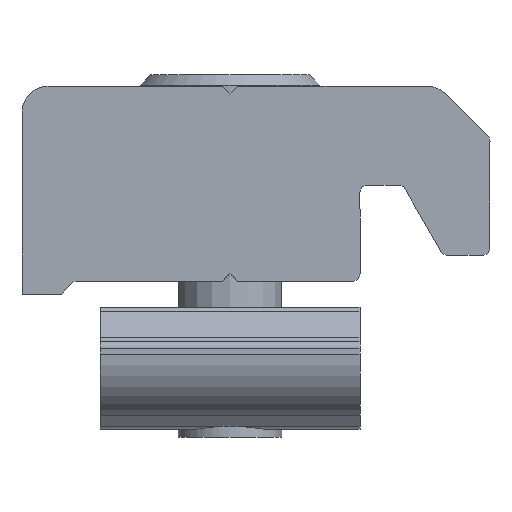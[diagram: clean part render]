
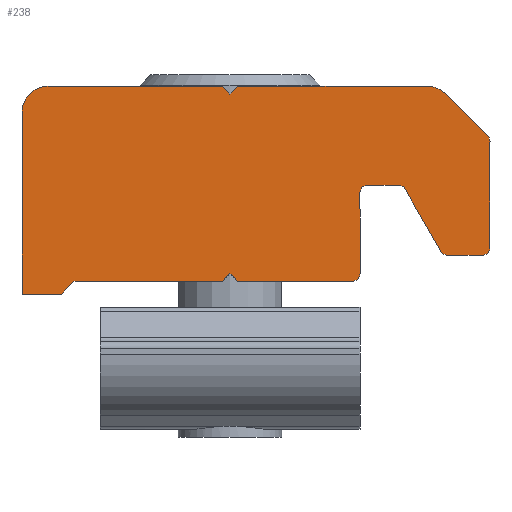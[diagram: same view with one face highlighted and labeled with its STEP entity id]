
A CAD part, front view. The second image highlights one B-rep face of the part: STEP entity #238.
In plain terms, the highlighted planar face has unit normal (0, -1, 0) as drawn and (0, 0, 1) by its records, which use the part's own axes.
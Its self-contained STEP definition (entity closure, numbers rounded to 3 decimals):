
#238=ADVANCED_FACE('',(#438),#439,.T.);
#438=FACE_OUTER_BOUND('',#654,.T.);
#439=PLANE('',#655);
#654=EDGE_LOOP('',(#1081,#1082,#1083,#1084,#1085,#1086,#1087,#1088,#1089,#1090,#1091,#1092,#1093,#1094,#1095,#1096,#1097,#1098,#1099,#1100,#1101,#1102,#1103,#1104,#1105,#1106));
#655=AXIS2_PLACEMENT_3D('',#1107,#1108,#1109);
#1081=ORIENTED_EDGE('',*,*,#1489,.T.);
#1082=ORIENTED_EDGE('',*,*,#1366,.T.);
#1083=ORIENTED_EDGE('',*,*,#1490,.T.);
#1084=ORIENTED_EDGE('',*,*,#1491,.T.);
#1085=ORIENTED_EDGE('',*,*,#1492,.T.);
#1086=ORIENTED_EDGE('',*,*,#1362,.T.);
#1087=ORIENTED_EDGE('',*,*,#1481,.T.);
#1088=ORIENTED_EDGE('',*,*,#1389,.T.);
#1089=ORIENTED_EDGE('',*,*,#1431,.T.);
#1090=ORIENTED_EDGE('',*,*,#1483,.T.);
#1091=ORIENTED_EDGE('',*,*,#1337,.T.);
#1092=ORIENTED_EDGE('',*,*,#1493,.T.);
#1093=ORIENTED_EDGE('',*,*,#1494,.T.);
#1094=ORIENTED_EDGE('',*,*,#1462,.T.);
#1095=ORIENTED_EDGE('',*,*,#1427,.T.);
#1096=ORIENTED_EDGE('',*,*,#1475,.T.);
#1097=ORIENTED_EDGE('',*,*,#1469,.T.);
#1098=ORIENTED_EDGE('',*,*,#1495,.T.);
#1099=ORIENTED_EDGE('',*,*,#1356,.T.);
#1100=ORIENTED_EDGE('',*,*,#1380,.T.);
#1101=ORIENTED_EDGE('',*,*,#1496,.T.);
#1102=ORIENTED_EDGE('',*,*,#1485,.T.);
#1103=ORIENTED_EDGE('',*,*,#1394,.T.);
#1104=ORIENTED_EDGE('',*,*,#1497,.T.);
#1105=ORIENTED_EDGE('',*,*,#1479,.T.);
#1106=ORIENTED_EDGE('',*,*,#1347,.T.);
#1107=CARTESIAN_POINT('',(1.,7.0,30.0));
#1108=DIRECTION('',(0.0,0.0,1.0));
#1109=DIRECTION('',(1.0,0.0,0.0));
#1337=EDGE_CURVE('',#1760,#1758,#1761,.T.);
#1347=EDGE_CURVE('',#1764,#1777,#1779,.T.);
#1356=EDGE_CURVE('',#1795,#1793,#1796,.T.);
#1362=EDGE_CURVE('',#1799,#1804,#1806,.T.);
#1366=EDGE_CURVE('',#1813,#1811,#1814,.T.);
#1380=EDGE_CURVE('',#1793,#1834,#1836,.T.);
#1389=EDGE_CURVE('',#1838,#1851,#1853,.T.);
#1394=EDGE_CURVE('',#1862,#1860,#1863,.T.);
#1427=EDGE_CURVE('',#1914,#1912,#1915,.T.);
#1431=EDGE_CURVE('',#1851,#1918,#1920,.T.);
#1462=EDGE_CURVE('',#1967,#1914,#1968,.T.);
#1469=EDGE_CURVE('',#1977,#1975,#1978,.T.);
#1475=EDGE_CURVE('',#1912,#1977,#1984,.T.);
#1479=EDGE_CURVE('',#1986,#1764,#1990,.T.);
#1481=EDGE_CURVE('',#1804,#1838,#1992,.T.);
#1483=EDGE_CURVE('',#1918,#1760,#1994,.T.);
#1485=EDGE_CURVE('',#1996,#1862,#1997,.T.);
#1489=EDGE_CURVE('',#1777,#1813,#2001,.T.);
#1490=EDGE_CURVE('',#1811,#2002,#2003,.T.);
#1491=EDGE_CURVE('',#2002,#2004,#2005,.T.);
#1492=EDGE_CURVE('',#2004,#1799,#2006,.T.);
#1493=EDGE_CURVE('',#1758,#2007,#2008,.T.);
#1494=EDGE_CURVE('',#2007,#1967,#2009,.T.);
#1495=EDGE_CURVE('',#1975,#1795,#2010,.T.);
#1496=EDGE_CURVE('',#1834,#1996,#2011,.T.);
#1497=EDGE_CURVE('',#1860,#1986,#2012,.T.);
#1758=VERTEX_POINT('',#2125);
#1760=VERTEX_POINT('',#2128);
#1761=LINE('',#2129,#2130);
#1764=VERTEX_POINT('',#2134);
#1777=VERTEX_POINT('',#2151);
#1779=LINE('',#2154,#2155);
#1793=VERTEX_POINT('',#2174);
#1795=VERTEX_POINT('',#2177);
#1796=LINE('',#2178,#2179);
#1799=VERTEX_POINT('',#2183);
#1804=VERTEX_POINT('',#2189);
#1806=LINE('',#2192,#2193);
#1811=VERTEX_POINT('',#2199);
#1813=VERTEX_POINT('',#2202);
#1814=LINE('',#2203,#2204);
#1834=VERTEX_POINT('',#2230);
#1836=CIRCLE('',#2233,0.3);
#1838=VERTEX_POINT('',#2235);
#1851=VERTEX_POINT('',#2252);
#1853=LINE('',#2255,#2256);
#1860=VERTEX_POINT('',#2264);
#1862=VERTEX_POINT('',#2267);
#1863=LINE('',#2268,#2269);
#1912=VERTEX_POINT('',#2334);
#1914=VERTEX_POINT('',#2337);
#1915=LINE('',#2338,#2339);
#1918=VERTEX_POINT('',#2343);
#1920=LINE('',#2346,#2347);
#1967=VERTEX_POINT('',#2400);
#1968=CIRCLE('',#2401,0.3);
#1975=VERTEX_POINT('',#2409);
#1977=VERTEX_POINT('',#2412);
#1978=LINE('',#2413,#2414);
#1984=CIRCLE('',#2423,0.3);
#1986=VERTEX_POINT('',#2425);
#1990=LINE('',#2430,#2431);
#1992=LINE('',#2433,#2434);
#1994=CIRCLE('',#2436,0.3);
#1996=VERTEX_POINT('',#2438);
#1997=CIRCLE('',#2439,1.);
#2001=CIRCLE('',#2444,1.0);
#2002=VERTEX_POINT('',#2445);
#2003=LINE('',#2446,#2447);
#2004=VERTEX_POINT('',#2448);
#2005=LINE('',#2449,#2450);
#2006=LINE('',#2451,#2452);
#2007=VERTEX_POINT('',#2453);
#2008=CIRCLE('',#2454,0.3);
#2009=LINE('',#2455,#2456);
#2010=CIRCLE('',#2457,0.3);
#2011=LINE('',#2458,#2459);
#2012=LINE('',#2460,#2461);
#2125=CARTESIAN_POINT('',(13.,3.9,30.0));
#2128=CARTESIAN_POINT('',(13.,0.8,30.0));
#2129=CARTESIAN_POINT('',(13.,0.8,30.0));
#2130=VECTOR('',#2629,1.0);
#2134=CARTESIAN_POINT('',(7.7,8.0,30.0));
#2151=CARTESIAN_POINT('',(1.,8.0,30.0));
#2154=CARTESIAN_POINT('',(7.7,8.0,30.0));
#2155=VECTOR('',#2642,1.0);
#2174=CARTESIAN_POINT('',(18.,5.876,30.0));
#2177=CARTESIAN_POINT('',(18.0,1.8,30.0));
#2178=CARTESIAN_POINT('',(18.0,1.8,30.0));
#2179=VECTOR('',#2649,1.0);
#2183=CARTESIAN_POINT('',(7.7,0.5,30.0));
#2189=CARTESIAN_POINT('',(8.0,0.8,30.0));
#2192=CARTESIAN_POINT('',(7.7,0.5,30.0));
#2193=VECTOR('',#2656,1.0);
#2199=CARTESIAN_POINT('',(0.0,0.0,30.0));
#2202=CARTESIAN_POINT('',(0.0,7.0,30.0));
#2203=CARTESIAN_POINT('',(0.0,7.0,30.0));
#2204=VECTOR('',#2659,1.0);
#2230=CARTESIAN_POINT('',(17.912,6.088,30.0));
#2233=AXIS2_PLACEMENT_3D('',#2676,#2677,#2678);
#2235=CARTESIAN_POINT('',(8.3,0.5,30.0));
#2252=CARTESIAN_POINT('',(12.7,0.5,30.0));
#2255=CARTESIAN_POINT('',(8.3,0.5,30.0));
#2256=VECTOR('',#2690,1.0);
#2264=CARTESIAN_POINT('',(8.3,8.0,30.0));
#2267=CARTESIAN_POINT('',(15.586,8.0,30.0));
#2268=CARTESIAN_POINT('',(15.586,8.0,30.0));
#2269=VECTOR('',#2696,1.0);
#2334=CARTESIAN_POINT('',(16.113,1.65,30.0));
#2337=CARTESIAN_POINT('',(14.728,4.05,30.0));
#2338=CARTESIAN_POINT('',(14.728,4.05,30.0));
#2339=VECTOR('',#2747,1.0);
#2343=CARTESIAN_POINT('',(12.702,0.5,30.0));
#2346=CARTESIAN_POINT('',(12.7,0.5,30.0));
#2347=VECTOR('',#2750,1.0);
#2400=CARTESIAN_POINT('',(14.468,4.2,30.0));
#2401=AXIS2_PLACEMENT_3D('',#2805,#2806,#2807);
#2409=CARTESIAN_POINT('',(17.7,1.5,30.0));
#2412=CARTESIAN_POINT('',(16.373,1.5,30.0));
#2413=CARTESIAN_POINT('',(16.373,1.5,30.0));
#2414=VECTOR('',#2813,1.0);
#2423=AXIS2_PLACEMENT_3D('',#2817,#2818,#2819);
#2425=CARTESIAN_POINT('',(8.0,7.7,30.0));
#2430=CARTESIAN_POINT('',(8.0,7.7,30.0));
#2431=VECTOR('',#2824,1.0);
#2433=CARTESIAN_POINT('',(8.0,0.8,30.0));
#2434=VECTOR('',#2825,1.0);
#2436=AXIS2_PLACEMENT_3D('',#2826,#2827,#2828);
#2438=CARTESIAN_POINT('',(16.293,7.707,30.0));
#2439=AXIS2_PLACEMENT_3D('',#2829,#2830,#2831);
#2444=AXIS2_PLACEMENT_3D('',#2833,#2834,#2835);
#2445=CARTESIAN_POINT('',(1.5,0.0,30.0));
#2446=CARTESIAN_POINT('',(0.0,0.0,30.0));
#2447=VECTOR('',#2836,1.0);
#2448=CARTESIAN_POINT('',(2.0,0.5,30.0));
#2449=CARTESIAN_POINT('',(1.5,0.0,30.0));
#2450=VECTOR('',#2837,1.0);
#2451=CARTESIAN_POINT('',(2.0,0.5,30.0));
#2452=VECTOR('',#2838,1.0);
#2453=CARTESIAN_POINT('',(13.3,4.2,30.0));
#2454=AXIS2_PLACEMENT_3D('',#2839,#2840,#2841);
#2455=CARTESIAN_POINT('',(13.3,4.2,30.0));
#2456=VECTOR('',#2842,1.0);
#2457=AXIS2_PLACEMENT_3D('',#2843,#2844,#2845);
#2458=CARTESIAN_POINT('',(17.912,6.088,30.0));
#2459=VECTOR('',#2846,1.0);
#2460=CARTESIAN_POINT('',(8.3,8.0,30.0));
#2461=VECTOR('',#2847,1.0);
#2629=DIRECTION('',(0.,1.0,0.0));
#2642=DIRECTION('',(-1.0,0.0,0.0));
#2649=DIRECTION('',(0.,1.0,0.0));
#2656=DIRECTION('',(0.707,0.707,0.0));
#2659=DIRECTION('',(0.0,-1.0,0.0));
#2676=CARTESIAN_POINT('',(17.7,5.876,30.0));
#2677=DIRECTION('',(0.0,0.0,1.0));
#2678=DIRECTION('',(1.0,0.0,0.0));
#2690=DIRECTION('',(1.0,0.,0.0));
#2696=DIRECTION('',(-1.0,0.0,0.0));
#2747=DIRECTION('',(0.5,-0.866,0.0));
#2750=DIRECTION('',(1.,0.004,0.0));
#2805=CARTESIAN_POINT('',(14.468,3.9,30.0));
#2806=DIRECTION('',(0.0,0.0,-1.0));
#2807=DIRECTION('',(-1.0,0.0,0.0));
#2813=DIRECTION('',(1.0,0.,0.0));
#2817=CARTESIAN_POINT('',(16.373,1.8,30.0));
#2818=DIRECTION('',(0.0,0.0,1.0));
#2819=DIRECTION('',(1.0,0.0,0.0));
#2824=DIRECTION('',(-0.707,0.707,0.0));
#2825=DIRECTION('',(0.707,-0.707,0.0));
#2826=CARTESIAN_POINT('',(12.7,0.8,30.0));
#2827=DIRECTION('',(0.0,0.0,1.0));
#2828=DIRECTION('',(1.0,0.0,0.0));
#2829=CARTESIAN_POINT('',(15.586,7.0,30.0));
#2830=DIRECTION('',(0.0,0.0,1.0));
#2831=DIRECTION('',(1.0,0.0,0.0));
#2833=CARTESIAN_POINT('',(1.,7.0,30.0));
#2834=DIRECTION('',(0.0,0.0,1.0));
#2835=DIRECTION('',(1.0,0.0,0.0));
#2836=DIRECTION('',(1.0,0.0,0.0));
#2837=DIRECTION('',(0.707,0.707,0.0));
#2838=DIRECTION('',(1.0,0.0,0.0));
#2839=CARTESIAN_POINT('',(13.3,3.9,30.0));
#2840=DIRECTION('',(0.0,0.0,-1.0));
#2841=DIRECTION('',(-1.0,0.0,0.0));
#2842=DIRECTION('',(1.0,0.,0.0));
#2843=CARTESIAN_POINT('',(17.7,1.8,30.0));
#2844=DIRECTION('',(0.0,0.0,1.0));
#2845=DIRECTION('',(1.0,0.0,0.0));
#2846=DIRECTION('',(-0.707,0.707,0.0));
#2847=DIRECTION('',(-0.707,-0.707,0.0));
